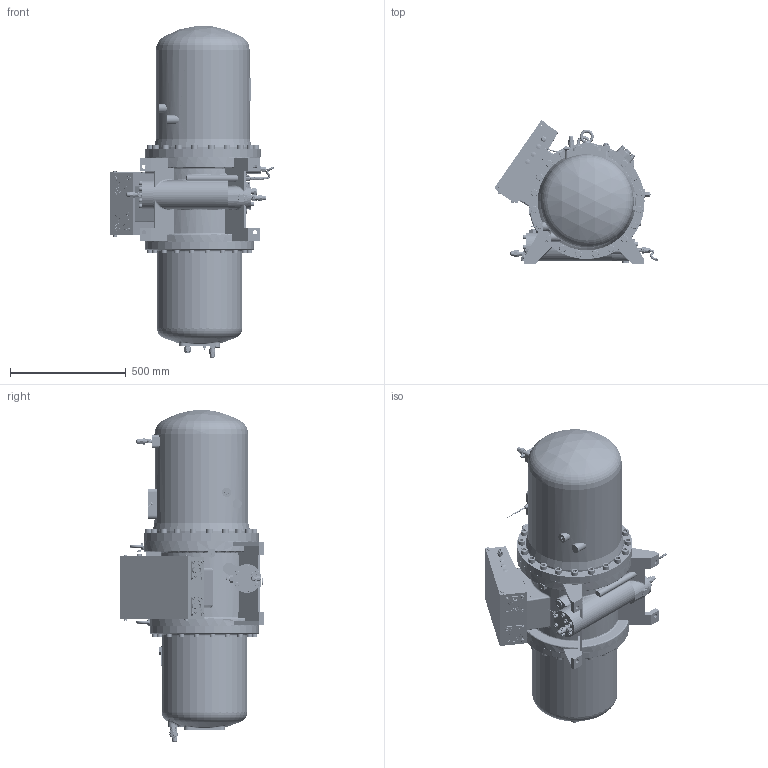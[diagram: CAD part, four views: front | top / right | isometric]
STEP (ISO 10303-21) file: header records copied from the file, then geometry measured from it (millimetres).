
FILE_DESCRIPTION(/* description */ ('STEP AP203'),/* implementation_level */ '2;1');
FILE_NAME(/* name */ 'C:\Users\Ian L Mitchell\Desktop\Hanbell 3D Drawings\Downloaded\RC2-340B outline.STEP',/* time_stamp */ '2017-06-26T14:57:31-04:00',/* author */ ('Ian L Mitchell'),/* organization */ (''),/* preprocessor_version */ 'ST-DEVELOPER v16.5',/* originating_system */ 'Autodesk Inventor 2017',/* authorisation */ '');
FILE_SCHEMA (('AUTOMOTIVE_DESIGN { 1 0 10303 214 3 1 1 }'));
Length unit declared in the file: centimetre
Products named in the file (1): RC2-340B outline
Bounding box: 708.48 x 622.75 x 1436.95 mm (x, y, z)
Surface area: 4248087.1 mm2 (no closed solid volume)
Topology: 0 solids, 289 shells, 2336 faces, 9607 edges, 7399 vertices
Faces by surface type: plane 1356, cylinder 605, torus 161, bspline 112, cone 76, sphere 26
Full cylindrical faces by diameter (mm): 2 x3, 3 x2, 3.3 x3, 4 x1, 4.5 x1, 5 x1, 6.5 x3, 7 x11, 8.5 x1, 10 x3, 11 x10, 12 x2, 12.5 x1, 13 x1, 13.157 x1, 13.7 x2, 14 x6, 14.88 x4, 16 x12, 16.662 x1, 17 x3, 17.5 x7, 18 x16, 19 x1, 20 x6, 20.5 x2, 21.5 x1, 22 x4, 22.4 x1, 22.5 x3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
Entity records: 142393 total; most frequent: CARTESIAN_POINT 64848, DIRECTION 16171, ORIENTED_EDGE 12835, EDGE_CURVE 9119, VERTEX_POINT 7299, AXIS2_PLACEMENT_3D 5804, LINE 4563, VECTOR 4563
